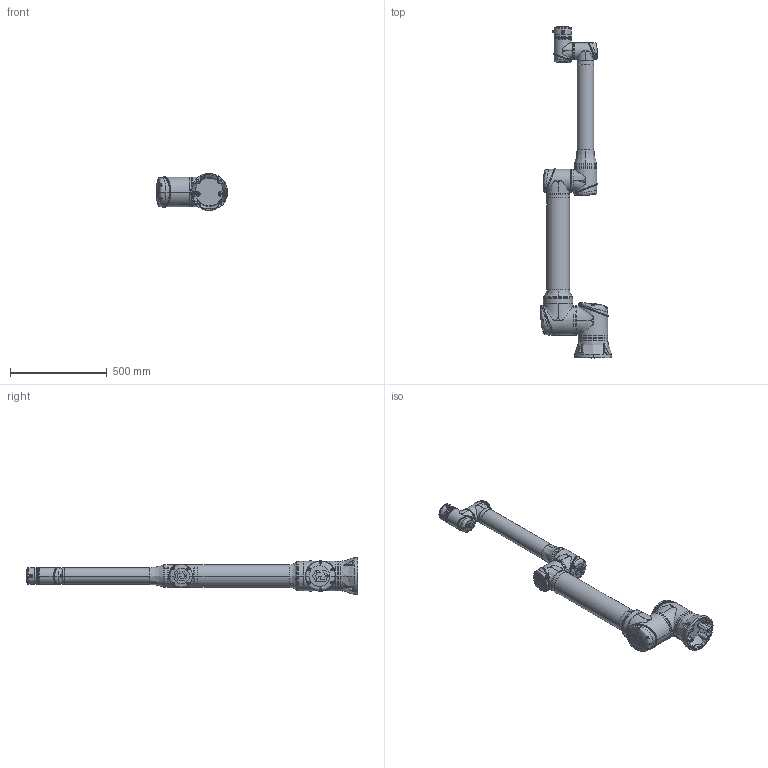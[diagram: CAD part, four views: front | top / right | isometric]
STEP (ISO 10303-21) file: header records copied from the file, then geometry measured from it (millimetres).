
FILE_DESCRIPTION (( 'STEP AP214' ), '1' );
FILE_NAME ('CS_掛极CS610A_V1.2.STEP', '2025-11-17T10:44:23', ( '' ), ( '' ), 'SwSTEP 2.0', 'SolidWorks 2020', '' );
FILE_SCHEMA (( 'AUTOMOTIVE_DESIGN' ));
Length unit declared in the file: millimetre
Products named in the file (8): CS610A_Base; CS610A_Link3; CS610A_Link5; CS610A_Link1; CS610A_Link2; CS_掛极CS610A_V1.2; CS612F藺傷; CS610A_Link4
Assembly tree (7 placements, depth 2):
  CS_掛极CS610A_V1.2
    CS610A_Base
    CS610A_Link1
    CS610A_Link2
    CS610A_Link3
    CS610A_Link4
    CS610A_Link5
    CS612F藺傷
Bounding box: 366.83 x 1711.5 x 189.7 mm (x, y, z)
Volume: 23019927.2 mm3; surface area: 1458230.2 mm2
Topology: 89 solids, 110 shells, 5499 faces, 13176 edges, 7878 vertices
Faces by surface type: bspline 2276, plane 1406, cylinder 1098, cone 410, torus 190, sphere 119
Entity records: 549502 total; most frequent: CARTESIAN_POINT 439521, ORIENTED_EDGE 25746, DIRECTION 17562, EDGE_CURVE 12873, VERTEX_POINT 7855, AXIS2_PLACEMENT_3D 7301, EDGE_LOOP 5854, FACE_OUTER_BOUND 5500
